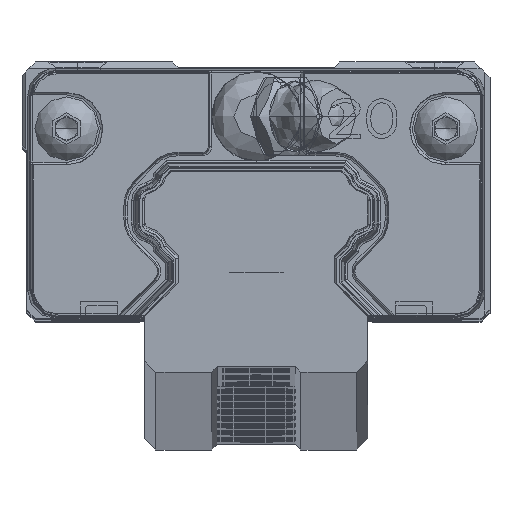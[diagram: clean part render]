
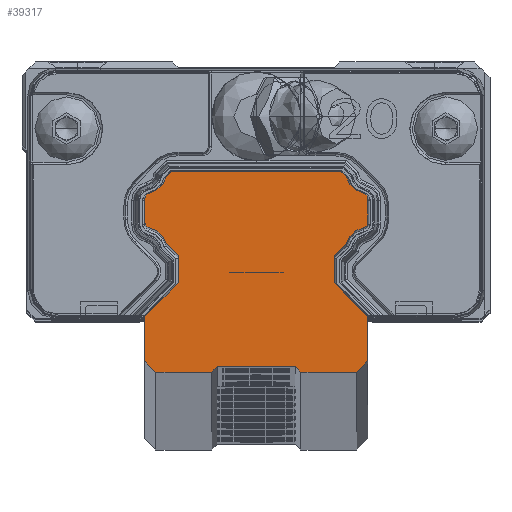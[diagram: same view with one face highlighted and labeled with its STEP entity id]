
A CAD part, top view. The second image highlights one B-rep face of the part: STEP entity #39317.
In plain terms, the highlighted planar face has unit normal (0, 0, 1).
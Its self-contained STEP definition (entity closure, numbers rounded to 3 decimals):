
#28413=DIRECTION('',(0.707,0.707,0.));
#28414=VECTOR('',#28413,0.707);
#28415=CARTESIAN_POINT('',(-4.,-14.5,500.));
#28416=LINE('',#28415,#28414);
#28471=DIRECTION('',(-1.,0.,0.));
#28472=VECTOR('',#28471,15.156);
#28473=CARTESIAN_POINT('',(7.578,3.5,500.));
#28474=LINE('',#28473,#28472);
#29145=DIRECTION('',(-0.707,-0.707,0.));
#29146=VECTOR('',#29145,0.706);
#29147=CARTESIAN_POINT('',(-7.578,3.5,500.));
#29148=LINE('',#29147,#29146);
#29506=DIRECTION('',(0.707,-0.707,0.));
#29507=VECTOR('',#29506,0.707);
#29508=CARTESIAN_POINT('',(3.5,-14.,500.));
#29509=LINE('',#29508,#29507);
#31959=DIRECTION('',(1.,0.,0.));
#31960=VECTOR('',#31959,7.);
#31961=CARTESIAN_POINT('',(-3.5,-14.,500.));
#31962=LINE('',#31961,#31960);
#32133=DIRECTION('',(-0.707,0.707,0.));
#32134=VECTOR('',#32133,1.523);
#32135=CARTESIAN_POINT('',(-7.,-4.079,500.));
#32136=LINE('',#32135,#32134);
#32137=CARTESIAN_POINT('',(-10.011,-3.511,500.));
#32138=DIRECTION('',(0.,0.,1.));
#32139=DIRECTION('',(0.967,0.254,0.));
#32140=AXIS2_PLACEMENT_3D('',#32137,#32138,#32139);
#32142=CARTESIAN_POINT('',(-9.5,-1.064,500.));
#32143=DIRECTION('',(0.,0.,-1.));
#32144=DIRECTION('',(-0.204,-0.979,0.));
#32145=AXIS2_PLACEMENT_3D('',#32142,#32143,#32144);
#32147=DIRECTION('',(0.,1.,0.));
#32148=VECTOR('',#32147,2.128);
#32149=CARTESIAN_POINT('',(-10.,-1.064,500.));
#32150=LINE('',#32149,#32148);
#32151=CARTESIAN_POINT('',(-9.5,1.064,500.));
#32152=DIRECTION('',(0.,0.,-1.));
#32153=DIRECTION('',(-1.,0.,0.));
#32154=AXIS2_PLACEMENT_3D('',#32151,#32152,#32153);
#32156=CARTESIAN_POINT('',(-10.011,3.511,500.));
#32157=DIRECTION('',(0.,0.,1.));
#32158=DIRECTION('',(0.206,-0.979,0.));
#32159=AXIS2_PLACEMENT_3D('',#32156,#32157,#32158);
#32161=CARTESIAN_POINT('',(10.011,3.511,500.));
#32162=DIRECTION('',(0.,0.,1.));
#32163=DIRECTION('',(-0.967,-0.255,0.));
#32164=AXIS2_PLACEMENT_3D('',#32161,#32162,#32163);
#32166=CARTESIAN_POINT('',(9.5,1.064,500.));
#32167=DIRECTION('',(0.,0.,-1.));
#32168=DIRECTION('',(0.204,0.979,0.));
#32169=AXIS2_PLACEMENT_3D('',#32166,#32167,#32168);
#32171=DIRECTION('',(0.,-1.,0.));
#32172=VECTOR('',#32171,2.128);
#32173=CARTESIAN_POINT('',(10.,1.064,500.));
#32174=LINE('',#32173,#32172);
#32175=CARTESIAN_POINT('',(9.5,-1.064,500.));
#32176=DIRECTION('',(0.,0.,-1.));
#32177=DIRECTION('',(1.,0.,0.));
#32178=AXIS2_PLACEMENT_3D('',#32175,#32176,#32177);
#32180=CARTESIAN_POINT('',(10.011,-3.511,500.));
#32181=DIRECTION('',(0.,0.,1.));
#32182=DIRECTION('',(-0.206,0.979,0.));
#32183=AXIS2_PLACEMENT_3D('',#32180,#32181,#32182);
#32185=DIRECTION('',(-0.707,-0.707,0.));
#32186=VECTOR('',#32185,1.523);
#32187=CARTESIAN_POINT('',(8.077,-3.003,500.));
#32188=LINE('',#32187,#32186);
#32189=DIRECTION('',(0.,-1.,0.));
#32190=VECTOR('',#32189,2.421);
#32191=CARTESIAN_POINT('',(7.,-4.079,500.));
#32192=LINE('',#32191,#32190);
#32193=DIRECTION('',(0.707,-0.707,0.));
#32194=VECTOR('',#32193,4.243);
#32195=CARTESIAN_POINT('',(7.,-6.5,500.));
#32196=LINE('',#32195,#32194);
#32197=DIRECTION('',(0.,-1.,0.));
#32198=VECTOR('',#32197,4.);
#32199=CARTESIAN_POINT('',(10.,-9.5,500.));
#32200=LINE('',#32199,#32198);
#32201=DIRECTION('',(-0.707,-0.707,0.));
#32202=VECTOR('',#32201,1.414);
#32203=CARTESIAN_POINT('',(10.,-13.5,500.));
#32204=LINE('',#32203,#32202);
#32205=DIRECTION('',(-1.,0.,0.));
#32206=VECTOR('',#32205,5.);
#32207=CARTESIAN_POINT('',(9.,-14.5,500.));
#32208=LINE('',#32207,#32206);
#32209=DIRECTION('',(-1.,0.,0.));
#32210=VECTOR('',#32209,5.);
#32211=CARTESIAN_POINT('',(-4.,-14.5,500.));
#32212=LINE('',#32211,#32210);
#32213=DIRECTION('',(-0.707,0.707,0.));
#32214=VECTOR('',#32213,1.414);
#32215=CARTESIAN_POINT('',(-9.,-14.5,500.));
#32216=LINE('',#32215,#32214);
#32217=DIRECTION('',(0.,1.,0.));
#32218=VECTOR('',#32217,4.);
#32219=CARTESIAN_POINT('',(-10.,-13.5,500.));
#32220=LINE('',#32219,#32218);
#32221=DIRECTION('',(0.707,0.707,0.));
#32222=VECTOR('',#32221,4.243);
#32223=CARTESIAN_POINT('',(-10.,-9.5,500.));
#32224=LINE('',#32223,#32222);
#32225=DIRECTION('',(0.,1.,0.));
#32226=VECTOR('',#32225,2.421);
#32227=CARTESIAN_POINT('',(-7.,-6.5,500.));
#32228=LINE('',#32227,#32226);
#32229=DIRECTION('',(-0.707,0.707,0.));
#32230=VECTOR('',#32229,0.706);
#32231=CARTESIAN_POINT('',(8.077,3.001,500.));
#32232=LINE('',#32231,#32230);
#32894=CARTESIAN_POINT('',(-7.,-4.079,500.));
#32896=VERTEX_POINT('',#32894);
#32899=CARTESIAN_POINT('',(-8.077,-3.003,500.));
#32900=VERTEX_POINT('',#32899);
#32902=CARTESIAN_POINT('',(-7.,-6.5,500.));
#32904=VERTEX_POINT('',#32902);
#32906=CARTESIAN_POINT('',(-10.,-9.5,500.));
#32908=VERTEX_POINT('',#32906);
#32910=CARTESIAN_POINT('',(-10.,-13.5,500.));
#32912=VERTEX_POINT('',#32910);
#32914=CARTESIAN_POINT('',(-9.,-14.5,500.));
#32916=VERTEX_POINT('',#32914);
#32918=CARTESIAN_POINT('',(-4.,-14.5,500.));
#32920=VERTEX_POINT('',#32918);
#32927=CARTESIAN_POINT('',(-3.5,-14.,500.));
#32928=VERTEX_POINT('',#32927);
#33027=CARTESIAN_POINT('',(3.5,-14.,500.));
#33028=VERTEX_POINT('',#33027);
#33209=CARTESIAN_POINT('',(-7.578,3.5,500.));
#33211=VERTEX_POINT('',#33209);
#33215=CARTESIAN_POINT('',(7.578,3.5,500.));
#33216=VERTEX_POINT('',#33215);
#33610=CARTESIAN_POINT('',(-8.077,3.001,500.));
#33612=VERTEX_POINT('',#33610);
#33614=CARTESIAN_POINT('',(-9.601,1.554,500.));
#33616=VERTEX_POINT('',#33614);
#33617=CARTESIAN_POINT('',(-10.,1.064,500.));
#33619=VERTEX_POINT('',#33617);
#33622=CARTESIAN_POINT('',(-10.,-1.064,500.));
#33624=VERTEX_POINT('',#33622);
#33626=CARTESIAN_POINT('',(-9.602,-1.553,500.));
#33628=VERTEX_POINT('',#33626);
#33653=CARTESIAN_POINT('',(4.,-14.5,500.));
#33654=VERTEX_POINT('',#33653);
#33655=CARTESIAN_POINT('',(8.077,3.001,500.));
#33656=VERTEX_POINT('',#33655);
#33657=CARTESIAN_POINT('',(9.602,1.553,500.));
#33658=VERTEX_POINT('',#33657);
#33659=CARTESIAN_POINT('',(10.,1.064,500.));
#33660=VERTEX_POINT('',#33659);
#33661=CARTESIAN_POINT('',(10.,-1.064,500.));
#33662=VERTEX_POINT('',#33661);
#33663=CARTESIAN_POINT('',(9.6,-1.554,500.));
#33664=VERTEX_POINT('',#33663);
#33665=CARTESIAN_POINT('',(8.077,-3.003,500.));
#33666=VERTEX_POINT('',#33665);
#33667=CARTESIAN_POINT('',(7.,-4.079,500.));
#33668=VERTEX_POINT('',#33667);
#33669=CARTESIAN_POINT('',(7.,-6.5,500.));
#33670=VERTEX_POINT('',#33669);
#33671=CARTESIAN_POINT('',(10.,-9.5,500.));
#33672=VERTEX_POINT('',#33671);
#33673=CARTESIAN_POINT('',(10.,-13.5,500.));
#33674=VERTEX_POINT('',#33673);
#33675=CARTESIAN_POINT('',(9.,-14.5,500.));
#33676=VERTEX_POINT('',#33675);
#39270=CARTESIAN_POINT('',(0.,0.,500.));
#39271=DIRECTION('',(0.,0.,1.));
#39272=DIRECTION('',(1.,0.,0.));
#39273=AXIS2_PLACEMENT_3D('',#39270,#39271,#39272);
#39274=PLANE('',#39273);
#39275=ORIENTED_EDGE('',*,*,#34088,.T.);
#39276=ORIENTED_EDGE('',*,*,#34858,.T.);
#39277=ORIENTED_EDGE('',*,*,#34844,.T.);
#39278=ORIENTED_EDGE('',*,*,#34829,.T.);
#39279=ORIENTED_EDGE('',*,*,#34814,.T.);
#39280=ORIENTED_EDGE('',*,*,#34799,.T.);
#39281=ORIENTED_EDGE('',*,*,#34784,.F.);
#39282=ORIENTED_EDGE('',*,*,#34369,.F.);
#39284=ORIENTED_EDGE('',*,*,#39283,.F.);
#39286=ORIENTED_EDGE('',*,*,#39285,.T.);
#39288=ORIENTED_EDGE('',*,*,#39287,.T.);
#39290=ORIENTED_EDGE('',*,*,#39289,.T.);
#39292=ORIENTED_EDGE('',*,*,#39291,.T.);
#39294=ORIENTED_EDGE('',*,*,#39293,.T.);
#39296=ORIENTED_EDGE('',*,*,#39295,.T.);
#39298=ORIENTED_EDGE('',*,*,#39297,.T.);
#39300=ORIENTED_EDGE('',*,*,#39299,.T.);
#39302=ORIENTED_EDGE('',*,*,#39301,.T.);
#39304=ORIENTED_EDGE('',*,*,#39303,.T.);
#39306=ORIENTED_EDGE('',*,*,#39305,.T.);
#39307=ORIENTED_EDGE('',*,*,#35043,.F.);
#39308=ORIENTED_EDGE('',*,*,#39162,.F.);
#39309=ORIENTED_EDGE('',*,*,#34180,.F.);
#39310=ORIENTED_EDGE('',*,*,#34163,.T.);
#39311=ORIENTED_EDGE('',*,*,#34148,.T.);
#39312=ORIENTED_EDGE('',*,*,#34133,.T.);
#39313=ORIENTED_EDGE('',*,*,#34118,.T.);
#39314=ORIENTED_EDGE('',*,*,#34103,.T.);
#39315=EDGE_LOOP('',(#39275,#39276,#39277,#39278,#39279,#39280,#39281,#39282,
#39284,#39286,#39288,#39290,#39292,#39294,#39296,#39298,#39300,#39302,#39304,
#39306,#39307,#39308,#39309,#39310,#39311,#39312,#39313,#39314));
#39316=FACE_OUTER_BOUND('',#39315,.F.);
#39317=ADVANCED_FACE('',(#39316),#39274,.T.);
#32141=CIRCLE('',#32140,2.);
#32146=CIRCLE('',#32145,0.5);
#32155=CIRCLE('',#32154,0.5);
#32160=CIRCLE('',#32159,2.);
#32165=CIRCLE('',#32164,2.);
#32170=CIRCLE('',#32169,0.5);
#32179=CIRCLE('',#32178,0.5);
#32184=CIRCLE('',#32183,2.);
#34088=EDGE_CURVE('',#32896,#32900,#32136,.T.);
#34103=EDGE_CURVE('',#32904,#32896,#32228,.T.);
#34118=EDGE_CURVE('',#32908,#32904,#32224,.T.);
#34133=EDGE_CURVE('',#32912,#32908,#32220,.T.);
#34148=EDGE_CURVE('',#32916,#32912,#32216,.T.);
#34163=EDGE_CURVE('',#32920,#32916,#32212,.T.);
#34180=EDGE_CURVE('',#32920,#32928,#28416,.T.);
#34369=EDGE_CURVE('',#33216,#33211,#28474,.T.);
#34784=EDGE_CURVE('',#33211,#33612,#29148,.T.);
#34799=EDGE_CURVE('',#33616,#33612,#32160,.T.);
#34814=EDGE_CURVE('',#33619,#33616,#32155,.T.);
#34829=EDGE_CURVE('',#33624,#33619,#32150,.T.);
#34844=EDGE_CURVE('',#33628,#33624,#32146,.T.);
#34858=EDGE_CURVE('',#32900,#33628,#32141,.T.);
#35043=EDGE_CURVE('',#33028,#33654,#29509,.T.);
#39162=EDGE_CURVE('',#32928,#33028,#31962,.T.);
#39283=EDGE_CURVE('',#33656,#33216,#32232,.T.);
#39285=EDGE_CURVE('',#33656,#33658,#32165,.T.);
#39287=EDGE_CURVE('',#33658,#33660,#32170,.T.);
#39289=EDGE_CURVE('',#33660,#33662,#32174,.T.);
#39291=EDGE_CURVE('',#33662,#33664,#32179,.T.);
#39293=EDGE_CURVE('',#33664,#33666,#32184,.T.);
#39295=EDGE_CURVE('',#33666,#33668,#32188,.T.);
#39297=EDGE_CURVE('',#33668,#33670,#32192,.T.);
#39299=EDGE_CURVE('',#33670,#33672,#32196,.T.);
#39301=EDGE_CURVE('',#33672,#33674,#32200,.T.);
#39303=EDGE_CURVE('',#33674,#33676,#32204,.T.);
#39305=EDGE_CURVE('',#33676,#33654,#32208,.T.);
